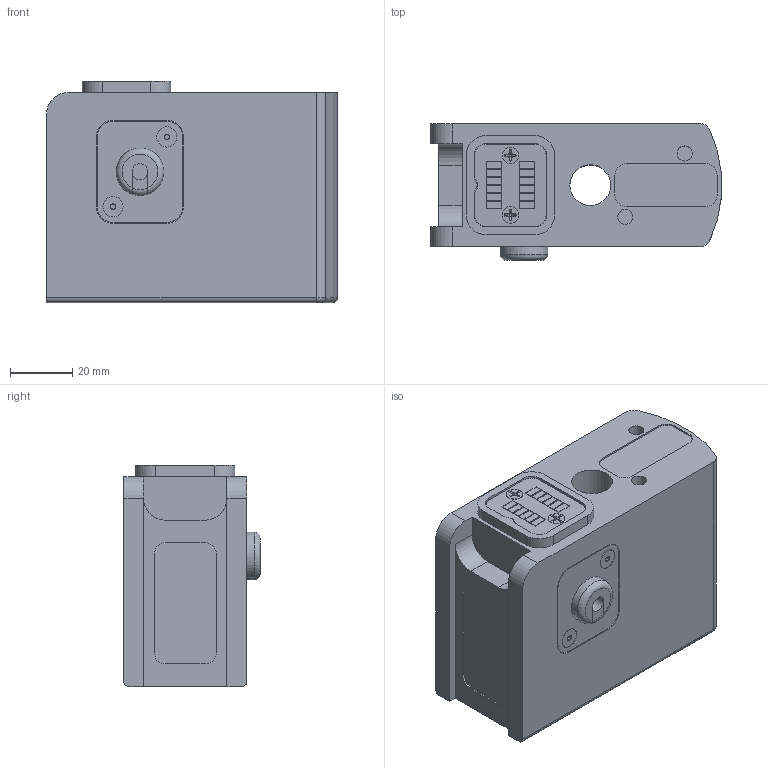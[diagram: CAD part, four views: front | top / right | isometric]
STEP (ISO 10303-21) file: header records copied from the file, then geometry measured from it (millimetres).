
FILE_DESCRIPTION(/* description */ (''),/* implementation_level */ '2;1');
FILE_NAME(/* name */ 'F:\CAD files\Itr\3D MARKETING MODELS\FORCE SENSORS\PTAF\PTAF_ADAPTER.stp',/* time_stamp */ '2021-02-08T15:14:49-05:00',/* author */ ('dsollitt'),/* organization */ (''),/* preprocessor_version */ 'ST-DEVELOPER v18.1',/* originating_system */ 'AutoCAD Mechanical',/* authorisation */ '');
FILE_SCHEMA (('AUTOMOTIVE_DESIGN { 1 0 10303 214 3 1 1 }'));
Length unit declared in the file: inch
Products named in the file (1): Product
Bounding box: 93.18 x 43.69 x 70.87 mm (x, y, z)
Volume: 228718.7 mm3; surface area: 29209.9 mm2
Topology: 1 solids, 1 shells, 251 faces, 637 edges, 419 vertices
Faces by surface type: plane 168, cylinder 52, cone 26, torus 3, bspline 2
Full cylindrical faces by diameter (mm): 2.845 x2, 4.826 x2, 6.477 x2, 13.096 x1
Entity records: 7542 total; most frequent: CARTESIAN_POINT 1480, ORIENTED_EDGE 1274, DIRECTION 1235, EDGE_CURVE 637, VERTEX_POINT 419, AXIS2_PLACEMENT_3D 412, LINE 411, VECTOR 411
